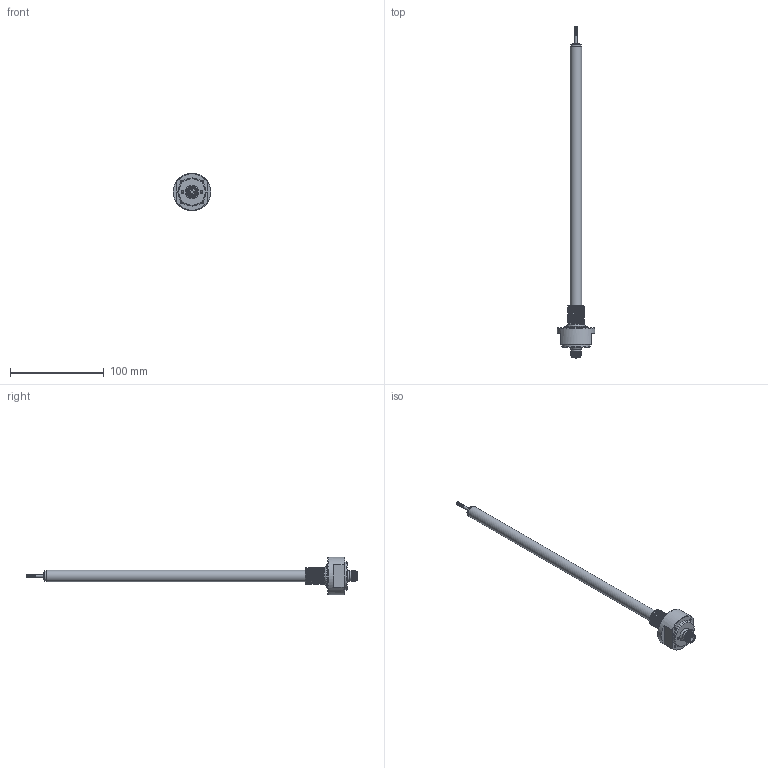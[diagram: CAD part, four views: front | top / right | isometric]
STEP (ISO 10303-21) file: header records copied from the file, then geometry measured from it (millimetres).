
FILE_DESCRIPTION( ( 'Unknown' ), '1' );
FILE_NAME( 'N:/Engineering/CAD/LVDT/HYD/Kunden-3D-Modell/SM180-HYD-18-S-M12.stp', 'Unknown', ( 'Unknown' ), ( 'Unknown' ), 'PSStep 17.0.49', 'Unknown', ' ' );
FILE_SCHEMA( ( 'AUTOMOTIVE_DESIGN { 1 0 10303 214 1 1 1 1 }' ) );
Length unit declared in the file: millimetre
Products named in the file (11): Einbaustecker_Waycon; Einbausteckverbinder_Waycon; Kontaktstift_M12; Assem1; Endkappe; Innenrohr_SM5-HYD; Kernverlängerung_SM5-HYD; SM-HYD-Flansch_M18_vereinfacht; O-Ring_15,4x2,1; Endkappe_HYD-KA_vereinfacht; Aussenrohr_SM180-HYD_vereinfacht
Assembly tree (13 placements, depth 3):
  Assem1
    Endkappe
    Innenrohr_SM5-HYD
    Kernverlängerung_SM5-HYD
    SM-HYD-Flansch_M18_vereinfacht
    O-Ring_15,4x2,1
    Endkappe_HYD-KA_vereinfacht
    Aussenrohr_SM180-HYD_vereinfacht
    Einbaustecker_Waycon
      Einbausteckverbinder_Waycon
      Kontaktstift_M12  x4
Bounding box: 40 x 353.2 x 40 mm (x, y, z)
Volume: 62271.1 mm3; surface area: 26783.3 mm2
Topology: 12 solids, 12 shells, 261 faces, 583 edges, 383 vertices
Faces by surface type: plane 122, cylinder 68, cone 37, extrusion 18, bspline 8, torus 8
Full cylindrical faces by diameter (mm): 0.5 x4, 1 x12, 1.2 x8, 1.8 x4, 2.013 x1, 2.4 x1, 2.5 x4, 2.6 x2, 3 x1, 4 x1, 6 x2, 8 x2, 8.2 x1, 8.3 x1, 9 x1, 9.35 x1, 9.55 x1, 10 x1, 10.05 x1, 10.5 x1, 10.6 x2, 11 x2, 12 x2, 15.8 x1, 22.5 x1, 24 x2, 30 x1, 40 x1
Entity records: 14294 total; most frequent: CARTESIAN_POINT 7955, DIRECTION 870, ORIENTED_EDGE 796, EDGE_CURVE 398, EDGE_LOOP 331, AXIS2_PLACEMENT_3D 327, VERTEX_POINT 309, FACE_OUTER_BOUND 264
